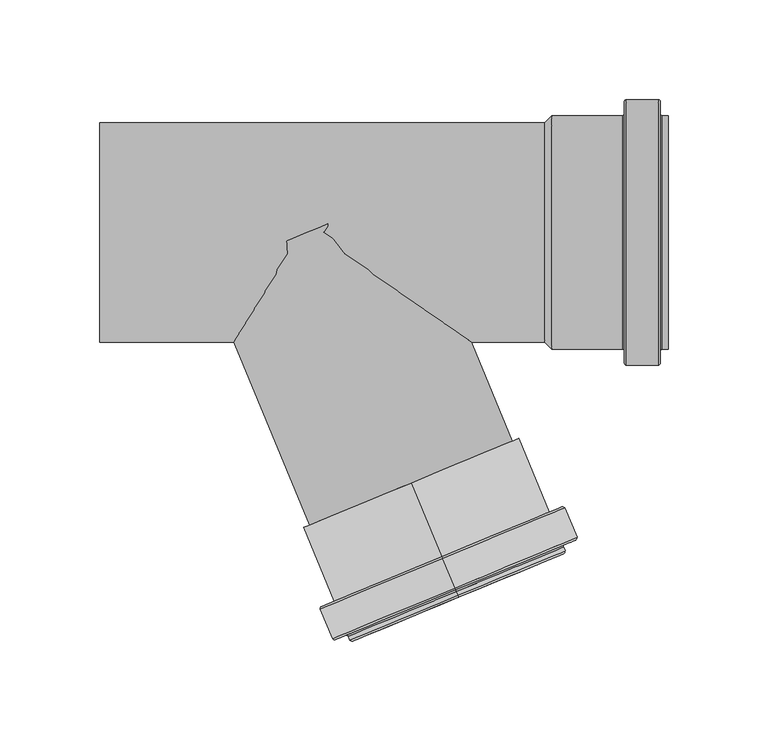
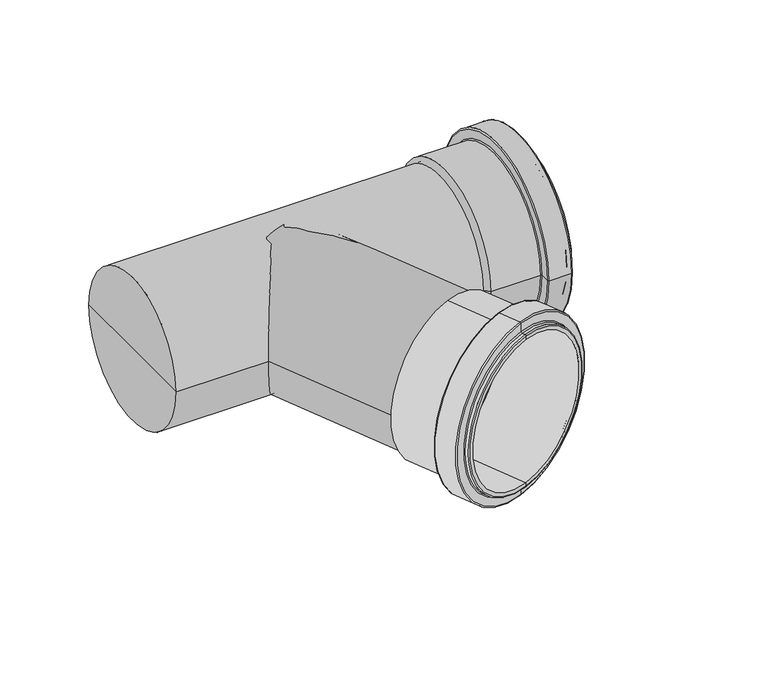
"""IFC4 building model written with IfcOpenShell, lengths in millimetres: pipe fitting geometry, MarleyPlumbingAndDrainage_PipeFitting_dBlueEqualBranch_VTR : VTR-110-110-67D - 110mm - Blue."""

import ifcopenshell
import ifcopenshell.guid

model = None  # the IFC model being written
_history = None  # IfcOwnerHistory: only IFC2X3 demands one
_inside = {}  # id of a spatial element -> (the spatial element, [elements in it])
_under = {}  # id of a project, library or spatial element -> (it, [spatial elements below it])
_declared = {}  # id of a project -> (the project, [libraries it declares])
_typed = {}  # id of a type object -> (the type object, [elements of that type])
_made_of = {}  # id of a material, layer set ... -> (it, [elements and type objects made of it])


def new_model(schema):
    """Start an empty IFC model of exactly this schema.

    Asked for "IFC4X3", IfcOpenShell would pick the latest addendum, in which some entities
    have other attributes; the version numbers below select the first issue.
    IFC2X3 requires an IfcOwnerHistory on every rooted entity: one is made here for all.
    """
    global model, _history
    if schema == "IFC4X3":
        model = ifcopenshell.file(schema_version=(4, 3, 0, 0))
    else:
        model = ifcopenshell.file(schema=schema)
    _inside.clear()
    _under.clear()
    _declared.clear()
    _typed.clear()
    _made_of.clear()
    _history = None
    if model.schema == "IFC2X3":
        org = make("IfcOrganization", Name="unknown")
        user = make(
            "IfcPersonAndOrganization",
            ThePerson=make("IfcPerson", FamilyName="unknown"),
            TheOrganization=org,
        )
        app = make(
            "IfcApplication",
            ApplicationDeveloper=org,
            Version="unknown",
            ApplicationFullName="unknown",
            ApplicationIdentifier="unknown",
        )
        _history = make(
            "IfcOwnerHistory",
            OwningUser=user,
            OwningApplication=app,
            ChangeAction="ADDED",
            CreationDate=0,
        )
    return model


def make(cls, **values):
    """One entity of the class cls with the attributes given. An attribute that is None is left unset."""
    return model.create_entity(
        cls, **{name: value for name, value in values.items() if value is not None}
    )


def rooted(cls, **values):
    """An entity with a GlobalId (a new one), such as an element, a storey or a relation."""
    return make(cls, GlobalId=ifcopenshell.guid.new(), OwnerHistory=_history, **values)


def si_unit(unit_type, name, prefix=None):
    """IfcSIUnit, for example si_unit("LENGTHUNIT", "METRE", prefix="MILLI")."""
    return make("IfcSIUnit", UnitType=unit_type, Prefix=prefix, Name=name)


def assignment(units):
    """IfcUnitAssignment: the units of a project."""
    return None if units is None else make("IfcUnitAssignment", Units=units)


def point(xyz):
    """IfcCartesianPoint."""
    return None if xyz is None else make("IfcCartesianPoint", Coordinates=xyz)


def direction(xyz):
    """IfcDirection."""
    return None if xyz is None else make("IfcDirection", DirectionRatios=xyz)


def frame(location, z_axis=None, x_axis=None):
    """IfcAxis2Placement3D, a coordinate frame: its origin and axes. An axis left out is left unset."""
    return make(
        "IfcAxis2Placement3D",
        Location=point(location),
        Axis=direction(z_axis),
        RefDirection=direction(x_axis),
    )


def frame_2d(location, x_axis=None):
    """IfcAxis2Placement2D, a coordinate frame in the plane: its origin and x axis."""
    return make(
        "IfcAxis2Placement2D", Location=point(location), RefDirection=direction(x_axis)
    )


def origin():
    """The frame at (0, 0, 0) with its axes left unset."""
    return frame((0.0, 0.0, 0.0))


def origin_2d():
    """The frame at (0, 0) in the plane with its x axis left unset."""
    return frame_2d((0.0, 0.0))


def place(relative_to, where):
    """IfcLocalPlacement: puts the frame where relative to a parent placement (None: the world)."""
    return make(
        "IfcLocalPlacement", PlacementRelTo=relative_to, RelativePlacement=where
    )


def context(
    kind, dimensions, precision=None, world=None, true_north=None, identifier=None
):
    """IfcGeometricRepresentationContext, for example the 3D "Model" context."""
    return make(
        "IfcGeometricRepresentationContext",
        ContextIdentifier=identifier,
        ContextType=kind,
        CoordinateSpaceDimension=dimensions,
        Precision=precision,
        WorldCoordinateSystem=world,
        TrueNorth=true_north,
    )


def project(units=None, contexts=None):
    """IfcProject with its units and contexts."""
    return rooted(
        "IfcProject",
        Name="project",
        RepresentationContexts=contexts,
        UnitsInContext=assignment(units),
    )


def spatial(cls, under=None, at=None, **own):
    """A site, building, storey or space (cls), placed at a placement, below another one or the project."""
    s = rooted(cls, ObjectPlacement=at, **own)
    if under is not None:
        _under.setdefault(under.id(), (under, []))[1].append(s)
    return s


def polyline(points):
    """IfcPolyline through the points."""
    return make("IfcPolyline", Points=[point(p) for p in points])


def circle_curve(where, radius):
    """IfcCircle in the frame where."""
    return make("IfcCircle", Position=where, Radius=radius)


def ellipse_curve(where, semi_axis1, semi_axis2):
    """IfcEllipse in the frame where."""
    return make(
        "IfcEllipse", Position=where, SemiAxis1=semi_axis1, SemiAxis2=semi_axis2
    )


def trimmed(basis, trim1, trim2, sense, master):
    """IfcTrimmedCurve: the piece of a basis curve between two trims."""
    return make(
        "IfcTrimmedCurve",
        BasisCurve=basis,
        Trim1=trim1,
        Trim2=trim2,
        SenseAgreement=sense,
        MasterRepresentation=master,
    )


def segment(curve, same_sense, transition):
    """IfcCompositeCurveSegment."""
    return make(
        "IfcCompositeCurveSegment",
        Transition=transition,
        SameSense=same_sense,
        ParentCurve=curve,
    )


def composite_curve(segments, self_intersect=None):
    """IfcCompositeCurve: segments joined end to end."""
    return make("IfcCompositeCurve", Segments=segments, SelfIntersect=self_intersect)


def outline(outer, holes=None, kind="AREA"):
    """IfcArbitraryClosedProfileDef: a profile drawn as a closed curve; with holes, ...WithVoids."""
    if holes is None:
        return make("IfcArbitraryClosedProfileDef", ProfileType=kind, OuterCurve=outer)
    return make(
        "IfcArbitraryProfileDefWithVoids",
        ProfileType=kind,
        OuterCurve=outer,
        InnerCurves=holes,
    )


def extrude(swept, where, along, depth):
    """IfcExtrudedAreaSolid: the profile swept, set in the frame where, extruded along a direction by depth."""
    return make(
        "IfcExtrudedAreaSolid",
        SweptArea=swept,
        Position=where,
        ExtrudedDirection=direction(along),
        Depth=depth,
    )


def shape(context_of_items, identifier, shape_type, items):
    """IfcShapeRepresentation: the items that make up one representation, for example the "Body"."""
    return make(
        "IfcShapeRepresentation",
        ContextOfItems=context_of_items,
        RepresentationIdentifier=identifier,
        RepresentationType=shape_type,
        Items=items,
    )


def source(mapping_origin, context_of_items, identifier, shape_type, items):
    """IfcRepresentationMap: a shape defined once, which mapped items show again and again."""
    return make(
        "IfcRepresentationMap",
        MappingOrigin=mapping_origin,
        MappedRepresentation=shape(context_of_items, identifier, shape_type, items),
    )


def transform(
    local_origin,
    x_axis=None,
    y_axis=None,
    z_axis=None,
    scale=None,
    scale2=None,
    scale3=None,
    uniform=True,
):
    """IfcCartesianTransformationOperator3D, or its non-uniform kind. x_axis, y_axis, z_axis: its Axis1, 2, 3."""
    if uniform:
        return make(
            "IfcCartesianTransformationOperator3D",
            Axis1=direction(x_axis),
            Axis2=direction(y_axis),
            LocalOrigin=point(local_origin),
            Scale=scale,
            Axis3=direction(z_axis),
        )
    return make(
        "IfcCartesianTransformationOperator3DnonUniform",
        Axis1=direction(x_axis),
        Axis2=direction(y_axis),
        LocalOrigin=point(local_origin),
        Scale=scale,
        Axis3=direction(z_axis),
        Scale2=scale2,
        Scale3=scale3,
    )


def mapped(mapping_source, mapping_target):
    """IfcMappedItem: shows the shape of a source again, moved by a transform."""
    return make(
        "IfcMappedItem", MappingSource=mapping_source, MappingTarget=mapping_target
    )


def made_of(thing, what):
    """Note that an element or type object is made of a material, layer set ...; save() writes the relation."""
    if what is not None:
        _made_of.setdefault(what.id(), (what, []))[1].append(thing)
    return thing


def element(
    cls,
    number,
    at=None,
    inside=None,
    cuts=None,
    type_object=None,
    material=None,
    context=None,
    identifier="Body",
    shape_type=None,
    held_by="IfcProductDefinitionShape",
    body=None,
    shapes=None,
    **own,
):
    """One element of the class cls, such as IfcWall. Its Tag is "e" and its number.

    at: its placement. inside: the storey or other place that contains it. cuts: it is an
    opening in that element (IfcRelVoidsElement). A single representation is given by context,
    identifier, shape_type and body (its items); several are given by shapes. held_by: the class
    of the entity that holds the representations. save() writes the other relations.
    """
    e = rooted(cls, Tag="e%d" % number, ObjectPlacement=at, **own)
    if body is not None:
        shapes = [shape(context, identifier, shape_type, body)]
    if shapes is not None:
        e.Representation = make(held_by, Representations=shapes)
    if inside is not None:
        _inside.setdefault(inside.id(), (inside, []))[1].append(e)
    if cuts is not None:
        rooted(
            "IfcRelVoidsElement", RelatingBuildingElement=cuts, RelatedOpeningElement=e
        )
    if type_object is not None:
        _typed.setdefault(type_object.id(), (type_object, []))[1].append(e)
    return made_of(e, material)


def aggregate(whole, parts):
    """IfcRelAggregates: a whole, such as a stair, and the parts it consists of."""
    return rooted("IfcRelAggregates", RelatingObject=whole, RelatedObjects=parts)


def save(model, path):
    """Write the relations noted so far, then the file.

    IfcRelAggregates (storeys below a building ...), IfcRelContainedInSpatialStructure (elements
    in a storey), IfcRelDefinesByType, IfcRelAssociatesMaterial and IfcRelDeclares: one each for
    every whole, place, type object, material and project.
    """
    for whole, parts in _under.values():
        aggregate(whole, parts)
    for where, things in _inside.values():
        rooted(
            "IfcRelContainedInSpatialStructure",
            RelatedElements=things,
            RelatingStructure=where,
        )
    for kind, things in _typed.values():
        rooted("IfcRelDefinesByType", RelatedObjects=things, RelatingType=kind)
    for what, things in _made_of.values():
        rooted("IfcRelAssociatesMaterial", RelatedObjects=things, RelatingMaterial=what)
    for by, libraries in _declared.values():
        rooted("IfcRelDeclares", RelatingContext=by, RelatedDefinitions=libraries)
    model.write(path)


def plane_surface(at):
    """IfcPlane: the flat surface through the origin of the frame at, square to its z axis."""
    return make("IfcPlane", Position=at)


def cylinder_surface(at, radius):
    """IfcCylindricalSurface: all points at the distance radius from the z axis of the frame at."""
    return make("IfcCylindricalSurface", Position=at, Radius=radius)


def revolved_surface(curve, axis_point, axis_direction):
    """IfcSurfaceOfRevolution: the curve turned about the line through axis_point along axis_direction."""
    return make(
        "IfcSurfaceOfRevolution",
        SweptCurve=make("IfcArbitraryOpenProfileDef", ProfileType="CURVE", Curve=curve),
        AxisPosition=make("IfcAxis1Placement", Location=point(axis_point), Axis=direction(axis_direction)),
    )


def advanced_brep(points, edges, surfaces, faces):
    """IfcAdvancedBrep: a solid bounded by faces that lie on surfaces and meet in shared edges.

    An edge is (start, end): straight between two places in points (the first is 0);
    or (start, end, curve); or (start, end, curve, False) where it runs against its curve.
    A face is (place in surfaces, loops), or (place, loops, False) where it looks against
    its surface's normal. A loop lists edges by number (the first is 1), with a minus sign
    where the edge is run from its end to its start. The first loop is the outer one.
    """
    corners = [point(p) for p in points]
    vertices = [make("IfcVertexPoint", VertexGeometry=c) for c in corners]
    made = []
    for start, end, *more in edges:
        made.append(
            make(
                "IfcEdgeCurve",
                EdgeStart=vertices[start],
                EdgeEnd=vertices[end],
                EdgeGeometry=more[0] if more else make("IfcPolyline", Points=[corners[start], corners[end]]),
                SameSense=more[1] if len(more) > 1 else True,
            )
        )
    hull = []
    for where, loops, *sense in faces:
        bounds = []
        for j, loop in enumerate(loops):
            ring = [make("IfcOrientedEdge", EdgeElement=made[abs(k) - 1], Orientation=k > 0) for k in loop]
            bounds.append(
                make(
                    "IfcFaceOuterBound" if j == 0 else "IfcFaceBound",
                    Bound=make("IfcEdgeLoop", EdgeList=ring),
                    Orientation=True,
                )
            )
        hull.append(make("IfcAdvancedFace", Bounds=bounds, FaceSurface=surfaces[where], SameSense=sense[0] if sense else True))
    return make("IfcAdvancedBrep", Outer=make("IfcClosedShell", CfsFaces=hull))


def pipe_fitting_47f9a3f0(model_context):
    return source(origin(), model_context, "Body", "SolidModel", [
        advanced_brep(
        [(37.219565, -125.6476164, -58.5), (37.219565, -125.6476164, 58.5), (37.219565, -125.6476164, 55.0), (37.219565, -125.6476164, -55.0), (52.5269023, -162.6027977, -58.5), (52.5269023, -162.6027977, 58.5), (52.5269023, -162.6027977, -65.5), (52.5269023, -162.6027977, 65.5), (59.0325206, -178.3087498, -66.5), (59.0325206, -178.3087498, 66.5), (52.9095857, -163.5266773, 66.5), (52.9095857, -163.5266773, -66.5), (59.4152041, -179.2326293, -59.5), (59.4152041, -179.2326293, 59.5), (59.4152041, -179.2326293, 65.5), (59.4152041, -179.2326293, -65.5), (60.5632544, -182.0042679, -58.5), (60.5632544, -182.0042679, 58.5), (59.7978875, -180.1565088, 58.5), (59.7978875, -180.1565088, -58.5), (60.9459378, -182.9281474, -55.0), (60.9459378, -182.9281474, 55.0), (60.9459378, -182.9281474, 57.5), (60.9459378, -182.9281474, -57.5)],
        [
            (0, 1, circle_curve(frame((37.219565, -125.6476164, 0.0), z_axis=(-0.3826834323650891, 0.9238795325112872, 0.0), x_axis=(0.0, 0.0, 1.0000000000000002)), 58.5)),
            (1, 2),
            (2, 3, circle_curve(frame((37.219565, -125.6476164, 0.0), z_axis=(0.3826834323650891, -0.9238795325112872, 0.0), x_axis=(0.0, 0.0, 1.0000000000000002)), 55.0)),
            (3, 0),
            (1, 0, circle_curve(frame((37.219565, -125.6476164, 0.0), z_axis=(-0.3826834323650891, 0.9238795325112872, 0.0), x_axis=(0.0, 0.0, 1.0000000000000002)), 58.5)),
            (3, 2, circle_curve(frame((37.219565, -125.6476164, 0.0), z_axis=(0.3826834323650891, -0.9238795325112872, 0.0), x_axis=(0.0, 0.0, 1.0000000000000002)), 55.0)),
            (4, 5, circle_curve(frame((52.5269023, -162.6027977, 0.0), z_axis=(-0.3826834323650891, 0.9238795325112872, 0.0), x_axis=(0.0, 0.0, 1.0000000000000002)), 58.5)),
            (5, 1),
            (0, 4),
            (5, 4, circle_curve(frame((52.5269023, -162.6027977, 0.0), z_axis=(-0.3826834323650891, 0.9238795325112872, 0.0), x_axis=(0.0, 0.0, 1.0000000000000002)), 58.5)),
            (6, 7, circle_curve(frame((52.5269023, -162.6027977, 0.0), z_axis=(-0.3826834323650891, 0.9238795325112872, 0.0), x_axis=(0.0, 0.0, 1.0000000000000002)), 65.5)),
            (7, 5),
            (4, 6),
            (7, 6, circle_curve(frame((52.5269023, -162.6027977, 0.0), z_axis=(-0.3826834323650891, 0.9238795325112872, 0.0), x_axis=(0.0, 0.0, 1.0000000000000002)), 65.5)),
            (8, 9, circle_curve(frame((59.0325206, -178.3087498, 0.0), z_axis=(-0.3826834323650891, 0.9238795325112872, 0.0), x_axis=(0.0, 0.0, 1.0000000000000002)), 66.5)),
            (9, 10),
            (10, 11, circle_curve(frame((52.9095857, -163.5266773, 0.0), z_axis=(0.3826834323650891, -0.9238795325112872, 0.0), x_axis=(0.0, 0.0, 1.0000000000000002)), 66.5)),
            (11, 8),
            (9, 8, circle_curve(frame((59.0325206, -178.3087498, 0.0), z_axis=(-0.3826834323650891, 0.9238795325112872, 0.0), x_axis=(0.0, 0.0, 1.0000000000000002)), 66.5)),
            (11, 10, circle_curve(frame((52.9095857, -163.5266773, 0.0), z_axis=(0.3826834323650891, -0.9238795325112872, 0.0), x_axis=(0.0, 0.0, 1.0000000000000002)), 66.5)),
            (12, 13, circle_curve(frame((59.4152041, -179.2326293, 0.0), z_axis=(-0.3826834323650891, 0.9238795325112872, 0.0), x_axis=(0.0, 0.0, 1.0000000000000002)), 59.5)),
            (13, 14),
            (14, 15, circle_curve(frame((59.4152041, -179.2326293, 0.0), z_axis=(0.3826834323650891, -0.9238795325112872, 0.0), x_axis=(0.0, 0.0, 1.0000000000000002)), 65.5)),
            (15, 12),
            (13, 12, circle_curve(frame((59.4152041, -179.2326293, 0.0), z_axis=(-0.3826834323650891, 0.9238795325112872, 0.0), x_axis=(0.0, 0.0, 1.0000000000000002)), 59.5)),
            (15, 14, circle_curve(frame((59.4152041, -179.2326293, 0.0), z_axis=(0.3826834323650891, -0.9238795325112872, 0.0), x_axis=(0.0, 0.0, 1.0000000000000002)), 65.5)),
            (16, 17, circle_curve(frame((60.5632544, -182.0042679, 0.0), z_axis=(-0.3826834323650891, 0.9238795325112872, 0.0), x_axis=(0.0, 0.0, 1.0000000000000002)), 58.5)),
            (17, 18),
            (18, 19, circle_curve(frame((59.7978875, -180.1565088, 0.0), z_axis=(0.3826834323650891, -0.9238795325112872, 0.0), x_axis=(0.0, 0.0, 1.0000000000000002)), 58.5)),
            (19, 16),
            (17, 16, circle_curve(frame((60.5632544, -182.0042679, 0.0), z_axis=(-0.3826834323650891, 0.9238795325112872, 0.0), x_axis=(0.0, 0.0, 1.0000000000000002)), 58.5)),
            (19, 18, circle_curve(frame((59.7978875, -180.1565088, 0.0), z_axis=(0.3826834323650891, -0.9238795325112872, 0.0), x_axis=(0.0, 0.0, 1.0000000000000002)), 58.5)),
            (20, 21, circle_curve(frame((60.9459378, -182.9281474, 0.0), z_axis=(-0.3826834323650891, 0.9238795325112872, 0.0), x_axis=(0.0, 0.0, 1.0000000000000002)), 55.0)),
            (21, 22),
            (22, 23, circle_curve(frame((60.9459378, -182.9281474, 0.0), z_axis=(0.3826834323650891, -0.9238795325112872, 0.0), x_axis=(0.0, 0.0, 1.0000000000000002)), 57.5)),
            (23, 20),
            (21, 20, circle_curve(frame((60.9459378, -182.9281474, 0.0), z_axis=(-0.3826834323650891, 0.9238795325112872, 0.0), x_axis=(0.0, 0.0, 1.0000000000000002)), 55.0)),
            (23, 22, circle_curve(frame((60.9459378, -182.9281474, 0.0), z_axis=(0.3826834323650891, -0.9238795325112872, 0.0), x_axis=(0.0, 0.0, 1.0000000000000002)), 57.5)),
            (2, 21),
            (20, 3),
            (10, 7, circle_curve(frame((52.9095857, -163.5266773, 65.5), z_axis=(-0.9238795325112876, -0.38268343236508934, 0.0), x_axis=(0.27059805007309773, -0.6532814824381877, 0.7071067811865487)), 1.0)),
            (6, 11, circle_curve(frame((52.9095857, -163.5266773, -65.5), z_axis=(-0.9238795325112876, -0.38268343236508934, 0.0), x_axis=(0.2705980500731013, -0.6532814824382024, -0.7071067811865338)), 1.0)),
            (14, 9, circle_curve(frame((59.0325206, -178.3087498, 65.5), z_axis=(-0.9238795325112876, -0.38268343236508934, 0.0), x_axis=(0.27059805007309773, -0.6532814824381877, 0.7071067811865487)), 1.0)),
            (8, 15, circle_curve(frame((59.0325206, -178.3087498, -65.5), z_axis=(-0.9238795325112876, -0.38268343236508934, 0.0), x_axis=(0.2705980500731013, -0.6532814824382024, -0.7071067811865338)), 1.0)),
            (18, 13, circle_curve(frame((59.7978875, -180.1565088, 59.5), z_axis=(0.9238795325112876, 0.38268343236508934, 0.0), x_axis=(0.27059805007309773, -0.6532814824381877, 0.7071067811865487)), 1.0)),
            (12, 19, circle_curve(frame((59.7978875, -180.1565088, -59.5), z_axis=(0.9238795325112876, 0.38268343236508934, 0.0), x_axis=(0.2705980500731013, -0.6532814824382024, -0.7071067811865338)), 1.0)),
            (22, 17, circle_curve(frame((60.5632544, -182.0042679, 57.5), z_axis=(-0.9238795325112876, -0.38268343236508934, 0.0), x_axis=(0.27059805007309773, -0.6532814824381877, 0.7071067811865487)), 1.0)),
            (16, 23, circle_curve(frame((60.5632544, -182.0042679, -57.5), z_axis=(-0.9238795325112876, -0.38268343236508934, 0.0), x_axis=(0.2705980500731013, -0.6532814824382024, -0.7071067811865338)), 1.0)),
        ],
        [
            plane_surface(frame((37.219565, -125.6476164, 0.0), z_axis=(-0.3826834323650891, 0.9238795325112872, 0.0), x_axis=(0.0, 0.0, 1.0))),
            cylinder_surface(frame((79.697426, -228.1982445, 0.0), z_axis=(0.3826834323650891, -0.9238795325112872, 0.0), x_axis=(0.0, 0.0, 1.0000000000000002)), 58.5),
            plane_surface(frame((52.5269023, -162.6027977, 0.0), z_axis=(-0.3826834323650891, 0.9238795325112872, 0.0), x_axis=(0.0, 0.0, 1.0))),
            cylinder_surface(frame((79.697426, -228.1982445, 0.0), z_axis=(0.3826834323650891, -0.9238795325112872, 0.0), x_axis=(0.0, 0.0, 1.0000000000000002)), 66.5),
            plane_surface(frame((59.4152041, -179.2326293, 0.0), z_axis=(0.3826834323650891, -0.9238795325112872, 0.0), x_axis=(0.0, 0.0, 1.0))),
            plane_surface(frame((60.9459378, -182.9281474, 0.0), z_axis=(0.3826834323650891, -0.9238795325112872, 0.0), x_axis=(0.0, 0.0, 1.0))),
            revolved_surface(polyline([(60.94593780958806, -182.92814739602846, 55.000000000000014), (37.219565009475, -125.64761639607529, 55.000000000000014)]), (79.697426, -228.1982445, 0.0), (0.3826834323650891, -0.9238795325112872, 0.0)),
            revolved_surface(trimmed(ellipse_curve(frame((52.9095857, -163.5266773, 65.5), z_axis=(0.9238795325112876, 0.38268343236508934, 0.0), x_axis=(0.27059805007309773, -0.6532814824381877, 0.7071067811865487)), 1.0, 1.0), [point((52.5269023, -162.6027977, 65.5))], [point((52.9095857, -163.5266773, 66.5))], True, "CARTESIAN"), (79.697426, -228.1982445, 0.0), (0.3826834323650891, -0.9238795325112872, 0.0)),
            revolved_surface(trimmed(ellipse_curve(frame((52.9095857, -163.5266773, 65.5), z_axis=(0.9238795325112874, 0.3826834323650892, 0.0), x_axis=(0.2705980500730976, -0.6532814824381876, 0.7071067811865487)), 1.0, 1.0), [point((52.5269023, -162.6027977, 65.5))], [point((52.9095857, -163.5266773, 66.5))], True, "CARTESIAN"), (79.697426, -228.1982445, 0.0), (0.3826834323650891, -0.9238795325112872, 0.0)),
            revolved_surface(trimmed(ellipse_curve(frame((59.0325206, -178.3087498, 65.5), z_axis=(0.9238795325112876, 0.38268343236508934, 0.0), x_axis=(0.27059805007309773, -0.6532814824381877, 0.7071067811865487)), 1.0, 1.0), [point((59.0325206, -178.3087498, 66.5))], [point((59.4152041, -179.2326293, 65.5))], True, "CARTESIAN"), (79.697426, -228.1982445, 0.0), (0.3826834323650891, -0.9238795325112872, 0.0)),
            revolved_surface(trimmed(ellipse_curve(frame((59.0325206, -178.3087498, 65.5), z_axis=(0.9238795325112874, 0.3826834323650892, 0.0), x_axis=(0.2705980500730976, -0.6532814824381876, 0.7071067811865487)), 1.0, 1.0), [point((59.0325206, -178.3087498, 66.5))], [point((59.4152041, -179.2326293, 65.5))], True, "CARTESIAN"), (79.697426, -228.1982445, 0.0), (0.3826834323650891, -0.9238795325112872, 0.0)),
            revolved_surface(trimmed(ellipse_curve(frame((59.7978875, -180.1565088, 59.5), z_axis=(-0.9238795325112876, -0.38268343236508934, 0.0), x_axis=(0.27059805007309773, -0.6532814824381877, 0.7071067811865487)), 1.0, 1.0), [point((59.4152041, -179.2326293, 59.5))], [point((59.7978875, -180.1565088, 58.5))], True, "CARTESIAN"), (79.697426, -228.1982445, 0.0), (0.3826834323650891, -0.9238795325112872, 0.0)),
            revolved_surface(trimmed(ellipse_curve(frame((59.7978875, -180.1565088, 59.5), z_axis=(-0.9238795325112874, -0.3826834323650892, 0.0), x_axis=(0.2705980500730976, -0.6532814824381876, 0.7071067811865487)), 1.0, 1.0), [point((59.4152041, -179.2326293, 59.5))], [point((59.7978875, -180.1565088, 58.5))], True, "CARTESIAN"), (79.697426, -228.1982445, 0.0), (0.3826834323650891, -0.9238795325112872, 0.0)),
            revolved_surface(trimmed(ellipse_curve(frame((60.5632544, -182.0042679, 57.5), z_axis=(0.9238795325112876, 0.38268343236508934, 0.0), x_axis=(0.27059805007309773, -0.6532814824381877, 0.7071067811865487)), 1.0, 1.0), [point((60.5632544, -182.0042679, 58.5))], [point((60.9459378, -182.9281474, 57.5))], True, "CARTESIAN"), (79.697426, -228.1982445, 0.0), (0.3826834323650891, -0.9238795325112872, 0.0)),
            revolved_surface(trimmed(ellipse_curve(frame((60.5632544, -182.0042679, 57.5), z_axis=(0.9238795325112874, 0.3826834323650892, 0.0), x_axis=(0.2705980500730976, -0.6532814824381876, 0.7071067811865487)), 1.0, 1.0), [point((60.5632544, -182.0042679, 58.5))], [point((60.9459378, -182.9281474, 57.5))], True, "CARTESIAN"), (79.697426, -228.1982445, 0.0), (0.3826834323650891, -0.9238795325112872, 0.0)),
        ],
        [
            (0, [[1, 2, 3, 4]]),
            (0, [[5, -4, 6, -2]]),
            (1, [[7, 8, -1, 9]]),
            (1, [[10, -9, -5, -8]]),
            (2, [[11, 12, -7, 13]]),
            (2, [[14, -13, -10, -12]]),
            (3, [[15, 16, 17, 18]]),
            (3, [[19, -18, 20, -16]]),
            (4, [[21, 22, 23, 24]]),
            (4, [[25, -24, 26, -22]]),
            (1, [[27, 28, 29, 30]]),
            (1, [[31, -30, 32, -28]]),
            (5, [[33, 34, 35, 36]]),
            (5, [[37, -36, 38, -34]]),
            (6, [[-3, 39, -33, 40]]),
            (6, [[-6, -40, -37, -39]]),
            (7, [[-17, 41, -11, 42]]),
            (8, [[-20, -42, -14, -41]]),
            (9, [[-23, 43, -15, 44]]),
            (10, [[-26, -44, -19, -43]]),
            (11, [[-29, 45, -21, 46]]),
            (12, [[-32, -46, -25, -45]]),
            (13, [[-35, 47, -27, 48]]),
            (14, [[-38, -48, -31, -47]]),
        ],
    ),
        extrude(outline(composite_curve([segment(trimmed(circle_curve(origin_2d(), 55.0), [point((0.0, -55.0))], [point((0.0, 55.0))], False, "CARTESIAN"), True, "CONTINUOUS"), segment(trimmed(circle_curve(origin_2d(), 55.0), [point((0.0, 55.0))], [point((0.0, -55.0))], False, "CARTESIAN"), True, "CONTINUOUS")], self_intersect=False)), frame((37.219565, -125.6476164, 0.0), z_axis=(-0.38268343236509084, 0.9238795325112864, 0.0), x_axis=(0.0, 0.0, 1.0)), (0.0, 0.0, 1.0), 136.0),
        advanced_brep(
        [(163.1746182, -58.5, 0.0), (163.1746182, 58.5, 0.0), (166.1746182, 58.5, 0.0), (166.1746182, -58.5, 0.0), (162.1746182, -65.5, 0.0), (162.1746182, 65.5, 0.0), (162.1746182, 59.5, 0.0), (162.1746182, -59.5, 0.0), (145.1746182, -66.5, 0.0), (145.1746182, 66.5, 0.0), (161.1746182, 66.5, 0.0), (161.1746182, -66.5, 0.0), (144.1746182, -59.5, 0.0), (144.1746182, 59.5, 0.0), (144.1746182, 65.5, 0.0), (144.1746182, -65.5, 0.0), (107.6746182, -58.5, 0.0), (107.6746182, 58.5, 0.0), (143.1746182, 58.5, 0.0), (143.1746182, -58.5, 0.0), (104.1746182, -55.0, 0.0), (104.1746182, 55.0, 0.0), (-118.8253818, -55.0, 0.0), (-118.8253818, 55.0, 0.0), (-118.8253818, 0.0, 0.0), (107.6746182, -55.0, 0.0), (107.6746182, 55.0, 0.0), (107.6746182, 0.0, 0.0), (166.1746182, -55.0, 0.0), (166.1746182, 55.0, 0.0)],
        [
            (0, 1, circle_curve(frame((163.1746182, 0.0, 0.0), z_axis=(1.0, 0.0, 0.0), x_axis=(0.0, 1.0, 0.0)), 58.5)),
            (1, 2),
            (2, 3, circle_curve(frame((166.1746182, 0.0, 0.0), z_axis=(-1.0, 0.0, 0.0), x_axis=(0.0, 1.0, 0.0)), 58.5)),
            (3, 0),
            (1, 0, circle_curve(frame((163.1746182, 0.0, 0.0), z_axis=(1.0, 0.0, 0.0), x_axis=(0.0, 1.0, 0.0)), 58.5)),
            (3, 2, circle_curve(frame((166.1746182, 0.0, 0.0), z_axis=(-1.0, 0.0, 0.0), x_axis=(0.0, 1.0, 0.0)), 58.5)),
            (4, 5, circle_curve(frame((162.1746182, 0.0, 0.0), z_axis=(1.0, 0.0, 0.0), x_axis=(0.0, 1.0, 0.0)), 65.5)),
            (5, 6),
            (6, 7, circle_curve(frame((162.1746182, 0.0, 0.0), z_axis=(-1.0, 0.0, 0.0), x_axis=(0.0, 1.0, 0.0)), 59.5)),
            (7, 4),
            (5, 4, circle_curve(frame((162.1746182, 0.0, 0.0), z_axis=(1.0, 0.0, 0.0), x_axis=(0.0, 1.0, 0.0)), 65.5)),
            (7, 6, circle_curve(frame((162.1746182, 0.0, 0.0), z_axis=(-1.0, 0.0, 0.0), x_axis=(0.0, 1.0, 0.0)), 59.5)),
            (8, 9, circle_curve(frame((145.1746182, 0.0, 0.0), z_axis=(1.0, 0.0, 0.0), x_axis=(0.0, 1.0, 0.0)), 66.5)),
            (9, 10),
            (10, 11, circle_curve(frame((161.1746182, 0.0, 0.0), z_axis=(-1.0, 0.0, 0.0), x_axis=(0.0, 1.0, 0.0)), 66.5)),
            (11, 8),
            (9, 8, circle_curve(frame((145.1746182, 0.0, 0.0), z_axis=(1.0, 0.0, 0.0), x_axis=(0.0, 1.0, 0.0)), 66.5)),
            (11, 10, circle_curve(frame((161.1746182, 0.0, 0.0), z_axis=(-1.0, 0.0, 0.0), x_axis=(0.0, 1.0, 0.0)), 66.5)),
            (12, 13, circle_curve(frame((144.1746182, 0.0, 0.0), z_axis=(1.0, 0.0, 0.0), x_axis=(0.0, 1.0, 0.0)), 59.5)),
            (13, 14),
            (14, 15, circle_curve(frame((144.1746182, 0.0, 0.0), z_axis=(-1.0, 0.0, 0.0), x_axis=(0.0, 1.0, 0.0)), 65.5)),
            (15, 12),
            (13, 12, circle_curve(frame((144.1746182, 0.0, 0.0), z_axis=(1.0, 0.0, 0.0), x_axis=(0.0, 1.0, 0.0)), 59.5)),
            (15, 14, circle_curve(frame((144.1746182, 0.0, 0.0), z_axis=(-1.0, 0.0, 0.0), x_axis=(0.0, 1.0, 0.0)), 65.5)),
            (16, 17, circle_curve(frame((107.6746182, 0.0, 0.0), z_axis=(1.0, 0.0, 0.0), x_axis=(0.0, 1.0, 0.0)), 58.5)),
            (17, 18),
            (18, 19, circle_curve(frame((143.1746182, 0.0, 0.0), z_axis=(-1.0, 0.0, 0.0), x_axis=(0.0, 1.0, 0.0)), 58.5)),
            (19, 16),
            (17, 16, circle_curve(frame((107.6746182, 0.0, 0.0), z_axis=(1.0, 0.0, 0.0), x_axis=(0.0, 1.0, 0.0)), 58.5)),
            (19, 18, circle_curve(frame((143.1746182, 0.0, 0.0), z_axis=(-1.0, 0.0, 0.0), x_axis=(0.0, 1.0, 0.0)), 58.5)),
            (20, 21, circle_curve(frame((104.1746182, 0.0, 0.0), z_axis=(1.0, 0.0, 0.0), x_axis=(0.0, 1.0, 0.0)), 55.0)),
            (21, 17),
            (16, 20),
            (21, 20, circle_curve(frame((104.1746182, 0.0, 0.0), z_axis=(1.0, 0.0, 0.0), x_axis=(0.0, 1.0, 0.0)), 55.0)),
            (22, 23, circle_curve(frame((-118.8253818, 0.0, 0.0), z_axis=(1.0, 0.0, 0.0), x_axis=(0.0, 1.0, 0.0)), 55.0)),
            (23, 21),
            (20, 22),
            (23, 22, circle_curve(frame((-118.8253818, 0.0, 0.0), z_axis=(1.0, 0.0, 0.0), x_axis=(0.0, 1.0, 0.0)), 55.0)),
            (24, 23),
            (22, 24),
            (25, 26, circle_curve(frame((107.6746182, 0.0, 0.0), z_axis=(1.0, 0.0, 0.0), x_axis=(0.0, 1.0, 0.0)), 55.0)),
            (26, 27),
            (27, 25),
            (26, 25, circle_curve(frame((107.6746182, 0.0, 0.0), z_axis=(1.0, 0.0, 0.0), x_axis=(0.0, 1.0, 0.0)), 55.0)),
            (28, 29, circle_curve(frame((166.1746182, 0.0, 0.0), z_axis=(1.0, 0.0, 0.0), x_axis=(0.0, 1.0, 0.0)), 55.0)),
            (29, 26),
            (25, 28),
            (29, 28, circle_curve(frame((166.1746182, 0.0, 0.0), z_axis=(1.0, 0.0, 0.0), x_axis=(0.0, 1.0, 0.0)), 55.0)),
            (2, 29),
            (28, 3),
            (6, 1, circle_curve(frame((163.1746182, 59.5, 0.0), z_axis=(0.0, 0.0, 1.0), x_axis=(1.0, 0.0, 0.0)), 1.0)),
            (0, 7, circle_curve(frame((163.1746182, -59.5, 0.0), z_axis=(0.0, 0.0, 1.0), x_axis=(1.0, 0.0, 0.0)), 1.0)),
            (10, 5, circle_curve(frame((161.1746182, 65.5, 0.0), z_axis=(0.0, 0.0, -1.0), x_axis=(1.0, 0.0, 0.0)), 1.0)),
            (4, 11, circle_curve(frame((161.1746182, -65.5, 0.0), z_axis=(0.0, 0.0, -1.0), x_axis=(1.0, 0.0, 0.0)), 1.0)),
            (14, 9, circle_curve(frame((145.1746182, 65.5, 0.0), z_axis=(0.0, 0.0, -1.0), x_axis=(1.0, 0.0, 0.0)), 1.0)),
            (8, 15, circle_curve(frame((145.1746182, -65.5, 0.0), z_axis=(0.0, 0.0, -1.0), x_axis=(1.0, 0.0, 0.0)), 1.0)),
            (18, 13, circle_curve(frame((143.1746182, 59.5, 0.0), z_axis=(0.0, 0.0, 1.0), x_axis=(1.0, 0.0, 0.0)), 1.0)),
            (12, 19, circle_curve(frame((143.1746182, -59.5, 0.0), z_axis=(0.0, 0.0, 1.0), x_axis=(1.0, 0.0, 0.0)), 1.0)),
        ],
        [
            cylinder_surface(frame((1980.0, 0.0, 0.0), z_axis=(-1.0, 0.0, 0.0), x_axis=(0.0, 1.0, 0.0)), 58.5),
            plane_surface(frame((162.1746182, 0.0, 0.0), z_axis=(1.0, 0.0, 0.0), x_axis=(0.0, 1.0, 0.0))),
            cylinder_surface(frame((1980.0, 0.0, 0.0), z_axis=(-1.0, 0.0, 0.0), x_axis=(0.0, 1.0, 0.0)), 66.5),
            plane_surface(frame((144.1746182, 0.0, 0.0), z_axis=(-1.0, 0.0, 0.0), x_axis=(0.0, 1.0, 0.0))),
            revolved_surface(polyline([(107.6746182, 58.5, 0.0), (104.1746182, 55.0, 0.0)]), (1980.0, 0.0, 0.0), (-1.0, 0.0, 0.0)),
            cylinder_surface(frame((1980.0, 0.0, 0.0), z_axis=(-1.0, 0.0, 0.0), x_axis=(0.0, 1.0, 0.0)), 55.0),
            plane_surface(frame((-118.8253818, 0.0, 0.0), z_axis=(-1.0, 0.0, 0.0), x_axis=(0.0, 1.0, 0.0))),
            plane_surface(frame((107.6746182, 0.0, 0.0), z_axis=(1.0, 0.0, 0.0), x_axis=(0.0, 1.0, 0.0))),
            revolved_surface(polyline([(107.67461819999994, 55.0, 0.0), (166.17461819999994, 55.0, 0.0)]), (1980.0, 0.0, 0.0), (-1.0, 0.0, 0.0)),
            plane_surface(frame((166.1746182, 0.0, 0.0), z_axis=(1.0, 0.0, 0.0), x_axis=(0.0, 1.0, 0.0))),
            revolved_surface(trimmed(ellipse_curve(frame((163.1746182, 59.5, 0.0), z_axis=(0.0, 0.0, -1.0), x_axis=(1.0, 0.0, 0.0)), 1.0, 1.0), [point((163.1746182, 58.5, 0.0))], [point((162.1746182, 59.5, 0.0))], True, "CARTESIAN"), (1980.0, 0.0, 0.0), (-1.0, 0.0, 0.0)),
            revolved_surface(trimmed(ellipse_curve(frame((161.1746182, 65.5, 0.0), z_axis=(0.0, 0.0, 1.0), x_axis=(1.0, 0.0, 0.0)), 1.0, 1.0), [point((162.1746182, 65.5, 0.0))], [point((161.1746182, 66.5, 0.0))], True, "CARTESIAN"), (1980.0, 0.0, 0.0), (-1.0, 0.0, 0.0)),
            revolved_surface(trimmed(ellipse_curve(frame((145.1746182, 65.5, 0.0), z_axis=(0.0, 0.0, 1.0), x_axis=(1.0, 0.0, 0.0)), 1.0, 1.0), [point((145.1746182, 66.5, 0.0))], [point((144.1746182, 65.5, 0.0))], True, "CARTESIAN"), (1980.0, 0.0, 0.0), (-1.0, 0.0, 0.0)),
            revolved_surface(trimmed(ellipse_curve(frame((143.1746182, 59.5, 0.0), z_axis=(0.0, 0.0, -1.0), x_axis=(1.0, 0.0, 0.0)), 1.0, 1.0), [point((144.1746182, 59.5, 0.0))], [point((143.1746182, 58.5, 0.0))], True, "CARTESIAN"), (1980.0, 0.0, 0.0), (-1.0, 0.0, 0.0)),
        ],
        [
            (0, [[1, 2, 3, 4]]),
            (0, [[5, -4, 6, -2]]),
            (1, [[7, 8, 9, 10]]),
            (1, [[11, -10, 12, -8]]),
            (2, [[13, 14, 15, 16]]),
            (2, [[17, -16, 18, -14]]),
            (3, [[19, 20, 21, 22]]),
            (3, [[23, -22, 24, -20]]),
            (0, [[25, 26, 27, 28]]),
            (0, [[29, -28, 30, -26]]),
            (4, [[31, 32, -25, 33]]),
            (4, [[34, -33, -29, -32]]),
            (5, [[35, 36, -31, 37]]),
            (5, [[38, -37, -34, -36]]),
            (6, [[39, -35, 40]]),
            (6, [[-40, -38, -39]]),
            (7, [[41, 42, 43]]),
            (7, [[44, -43, -42]]),
            (8, [[45, 46, -41, 47]]),
            (8, [[48, -47, -44, -46]]),
            (9, [[-3, 49, -45, 50]]),
            (9, [[-6, -50, -48, -49]]),
            (10, [[-9, 51, -1, 52]]),
            (10, [[-12, -52, -5, -51]]),
            (11, [[-15, 53, -7, 54]]),
            (11, [[-18, -54, -11, -53]]),
            (12, [[-21, 55, -13, 56]]),
            (12, [[-24, -56, -17, -55]]),
            (13, [[-27, 57, -19, 58]]),
            (13, [[-30, -58, -23, -57]]),
        ],
    ),
    ])


if __name__ == "__main__":
    model = new_model("IFC4")
    model_context = context("Model", 3, world=origin())
    ifc_project = project(units=[si_unit("LENGTHUNIT", "METRE", prefix="MILLI")], contexts=[model_context])
    site = spatial("IfcSite", under=ifc_project)
    building = spatial("IfcBuilding", under=site)
    placement = place(None, origin())
    pipe_fitting_shape = pipe_fitting_47f9a3f0(model_context)
    element("IfcPipeFitting", 1, ObjectType="MarleyPlumbingAndDrainage_PipeFitting_dBlueEqualBranch_VTR : VTR-110-110-67D - 110mm - Blue", at=placement, inside=building, context=model_context, shape_type="MappedRepresentation", body=[
        mapped(pipe_fitting_shape, transform((0.0, 0.0, 0.0), x_axis=(1.0, 0.0, 0.0), y_axis=(0.0, 1.0, 0.0), z_axis=(0.0, 0.0, 1.0))),
    ])
    save(model, "model.ifc")
